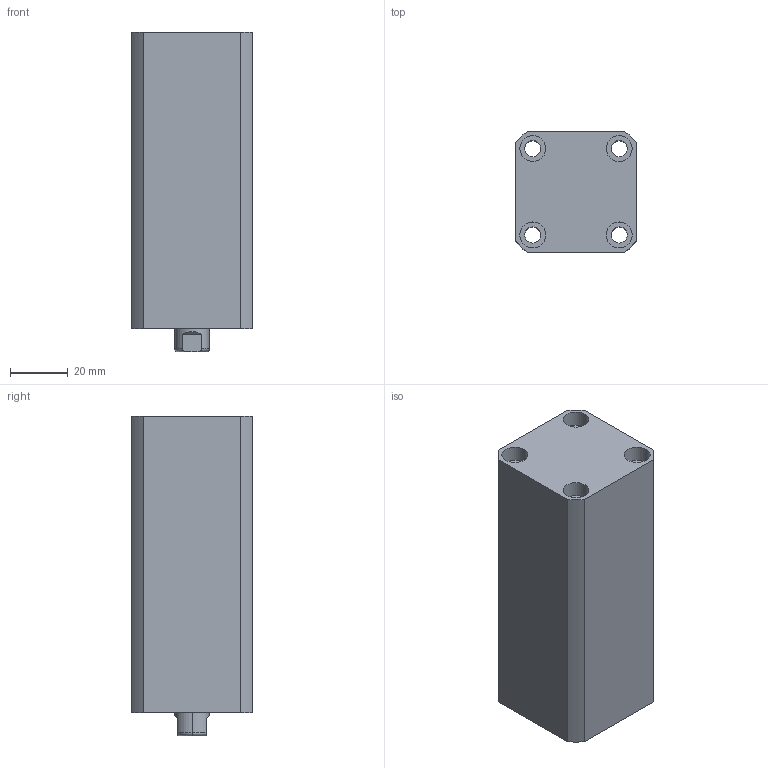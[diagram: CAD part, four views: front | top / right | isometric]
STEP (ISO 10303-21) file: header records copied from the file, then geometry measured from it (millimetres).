
FILE_DESCRIPTION (( 'STEP AP214' ), '1' );
FILE_NAME ('chtb-sd20x60n_asm.STEP', '2018-04-26T12:11:11', ( 'Windows' ), ( 'Microsoft' ), 'SwSTEP 2.0', 'SolidWorks 2015', '' );
FILE_SCHEMA (( 'AUTOMOTIVE_DESIGN' ));
Length unit declared in the file: millimetre
Products named in the file (4): QG; CHTB-SD20X60NHSG; CHTB-SD20X60NBT; chtb-sd20x60n_asm
Assembly tree (3 placements, depth 2):
  chtb-sd20x60n_asm
    CHTB-SD20X60NBT
    CHTB-SD20X60NHSG
    QG
Bounding box: 42 x 42 x 111 mm (x, y, z)
Volume: 151937.8 mm3; surface area: 44430 mm2
Topology: 3 solids, 3 shells, 192 faces, 499 edges, 330 vertices
Faces by surface type: cylinder 102, plane 36, torus 25, bspline 19, cone 10
Entity records: 10524 total; most frequent: CARTESIAN_POINT 5851, ORIENTED_EDGE 986, DIRECTION 903, EDGE_CURVE 493, AXIS2_PLACEMENT_3D 385, VERTEX_POINT 330, EDGE_LOOP 229, CIRCLE 206
